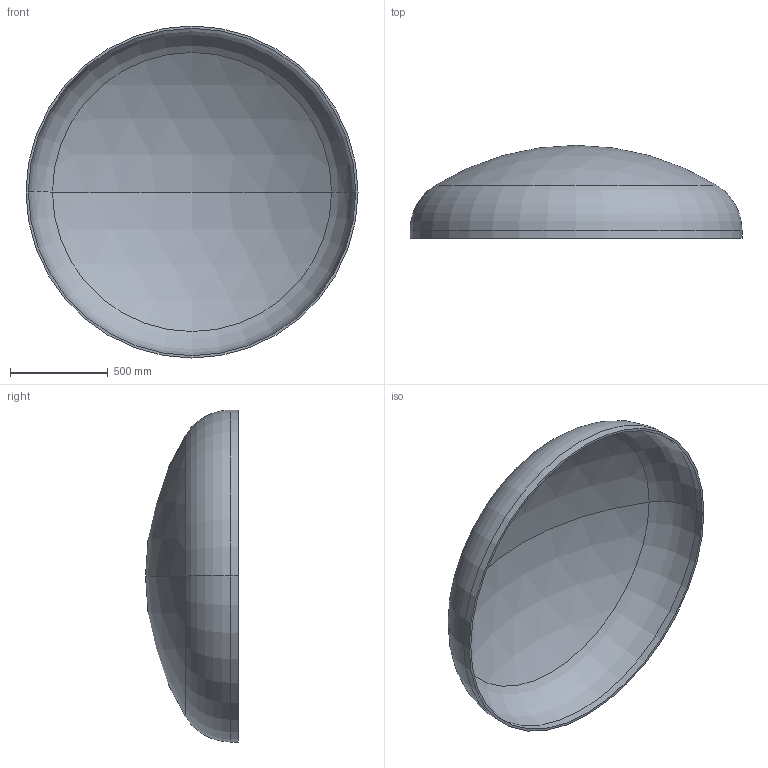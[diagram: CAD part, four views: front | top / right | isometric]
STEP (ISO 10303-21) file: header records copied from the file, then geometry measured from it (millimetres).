
FILE_DESCRIPTION (( 'STEP AP203' ), '1' );
FILE_NAME ('DIN 28013 Korbbogenform_-_Boden DIN 28013 - 1700 x 40 - I - s=12.step', '2016-07-01T11:37:24', ( '' ), ( '' ), 'SwSTEP 2.0', 'SolidWorks 2013', '' );
FILE_SCHEMA (( 'CONFIG_CONTROL_DESIGN' ));
Length unit declared in the file: millimetre
Products named in the file (1): DIN 28013 Korbbogenform_-_Boden DIN 28013 - 1700 x 40 - I - s=12
Bounding box: 1700 x 476.1 x 1700 mm (x, y, z)
Volume: 39868958.8 mm3; surface area: 6708761.6 mm2
Topology: 1 solids, 1 shells, 13 faces, 24 edges, 14 vertices
Faces by surface type: torus 4, cylinder 4, sphere 4, plane 1
Entity records: 407 total; most frequent: DIRECTION 72, CARTESIAN_POINT 52, ORIENTED_EDGE 48, AXIS2_PLACEMENT_3D 34, EDGE_CURVE 24, CIRCLE 20, EDGE_LOOP 14, VERTEX_POINT 14
